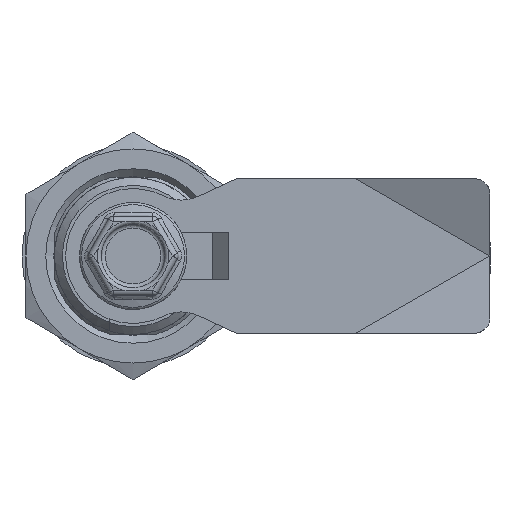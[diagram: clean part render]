
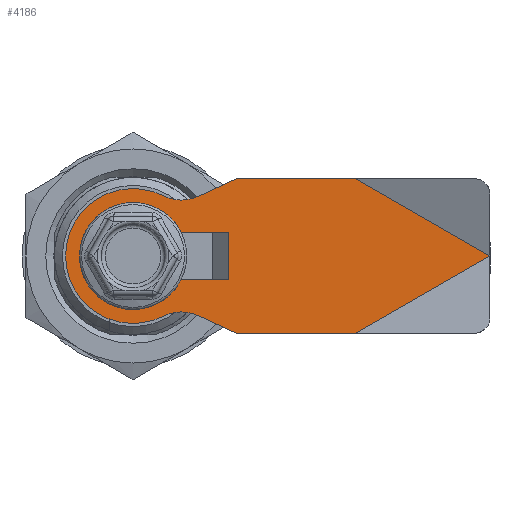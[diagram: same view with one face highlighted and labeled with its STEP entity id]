
A CAD part, front view. The second image highlights one B-rep face of the part: STEP entity #4186.
In plain terms, the highlighted planar face has unit normal (0, -1, 0).
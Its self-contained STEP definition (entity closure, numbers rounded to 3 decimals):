
#3081 = EDGE_CURVE ( 'NONE', #25809, #25818, #16347, .T. ) ;
#3082 = EDGE_CURVE ( 'NONE', #25818, #25817, #16358, .T. ) ;
#3083 = EDGE_CURVE ( 'NONE', #25813, #25812, #16360, .T. ) ;
#3090 = EDGE_CURVE ( 'NONE', #25773, #25790, #16362, .T. ) ;
#3094 = EDGE_CURVE ( 'NONE', #25797, #25794, #16376, .T. ) ;
#3100 = EDGE_CURVE ( 'NONE', #25814, #25813, #16389, .T. ) ;
#3117 = EDGE_CURVE ( 'NONE', #25796, #25812, #16401, .T. ) ;
#3124 = EDGE_CURVE ( 'NONE', #25817, #25816, #16429, .T. ) ;
#3134 = EDGE_CURVE ( 'NONE', #25778, #25793, #16435, .T. ) ;
#3135 = EDGE_CURVE ( 'NONE', #25816, #25815, #16447, .T. ) ;
#3137 = EDGE_CURVE ( 'NONE', #25815, #25814, #16450, .T. ) ;
#3138 = EDGE_CURVE ( 'NONE', #25809, #25796, #16449, .T. ) ;
#3154 = EDGE_CURVE ( 'NONE', #25793, #25773, #16469, .T. ) ;
#3158 = EDGE_CURVE ( 'NONE', #25790, #25778, #16474, .T. ) ;
#3168 = EDGE_CURVE ( 'NONE', #25794, #25811, #16498, .T. ) ;
#3169 = EDGE_CURVE ( 'NONE', #25811, #25810, #16500, .T. ) ;
#3184 = EDGE_CURVE ( 'NONE', #25810, #25797, #16508, .T. ) ;
#4186 = ADVANCED_FACE ( 'NONE', ( #16903, #16891, #16907 ), #14662, .F. ) ;
#5325 = EDGE_LOOP ( 'NONE', ( #6592, #6593, #6594, #6595, #6649, #6653, #6656, #6646, #6645 ) ) ;
#5494 = EDGE_LOOP ( 'NONE', ( #6588, #6589, #6590, #6591 ) ) ;
#5808 = EDGE_LOOP ( 'NONE', ( #6584, #6585, #6586, #6587 ) ) ;
#6584 = ORIENTED_EDGE ( 'NONE', *, *, #3094, .T. ) ;
#6585 = ORIENTED_EDGE ( 'NONE', *, *, #3168, .T. ) ;
#6586 = ORIENTED_EDGE ( 'NONE', *, *, #3169, .T. ) ;
#6587 = ORIENTED_EDGE ( 'NONE', *, *, #3184, .T. ) ;
#6588 = ORIENTED_EDGE ( 'NONE', *, *, #3134, .T. ) ;
#6589 = ORIENTED_EDGE ( 'NONE', *, *, #3154, .T. ) ;
#6590 = ORIENTED_EDGE ( 'NONE', *, *, #3090, .T. ) ;
#6591 = ORIENTED_EDGE ( 'NONE', *, *, #3158, .T. ) ;
#6592 = ORIENTED_EDGE ( 'NONE', *, *, #3138, .T. ) ;
#6593 = ORIENTED_EDGE ( 'NONE', *, *, #3117, .T. ) ;
#6594 = ORIENTED_EDGE ( 'NONE', *, *, #3083, .F. ) ;
#6595 = ORIENTED_EDGE ( 'NONE', *, *, #3100, .F. ) ;
#6645 = ORIENTED_EDGE ( 'NONE', *, *, #3081, .F. ) ;
#6646 = ORIENTED_EDGE ( 'NONE', *, *, #3082, .F. ) ;
#6649 = ORIENTED_EDGE ( 'NONE', *, *, #3137, .F. ) ;
#6653 = ORIENTED_EDGE ( 'NONE', *, *, #3135, .F. ) ;
#6656 = ORIENTED_EDGE ( 'NONE', *, *, #3124, .F. ) ;
#13034 = AXIS2_PLACEMENT_3D ( 'NONE', #22293, #22294, #22295 ) ;
#13035 = AXIS2_PLACEMENT_3D ( 'NONE', #22318, #22321, #22322 ) ;
#13038 = AXIS2_PLACEMENT_3D ( 'NONE', #22315, #22326, #22327 ) ;
#14662 = PLANE ( 'NONE',  #23361 ) ;
#14663 = CARTESIAN_POINT ( 'NONE',  ( -6.094, -4., -12.046 ) ) ;
#14664 = DIRECTION ( 'NONE',  ( 0., 1., 0. ) ) ;
#14665 = DIRECTION ( 'NONE',  ( 0., 0., 1. ) ) ;
#15367 = CARTESIAN_POINT ( 'NONE',  ( -12., -4., -3. ) ) ;
#15372 = CARTESIAN_POINT ( 'NONE',  ( -6., -4., 3. ) ) ;
#15384 = CARTESIAN_POINT ( 'NONE',  ( -12., -4., 3. ) ) ;
#15387 = CARTESIAN_POINT ( 'NONE',  ( -6., -4., -3. ) ) ;
#15388 = CARTESIAN_POINT ( 'NONE',  ( -4.05, -4., -4.05 ) ) ;
#15390 = CARTESIAN_POINT ( 'NONE',  ( -45., -4., 0. ) ) ;
#15391 = CARTESIAN_POINT ( 'NONE',  ( 4.05, -4., -4.05 ) ) ;
#15403 = CARTESIAN_POINT ( 'NONE',  ( -28., -4., 9.75 ) ) ;
#15404 = CARTESIAN_POINT ( 'NONE',  ( 4.05, -4., 4.05 ) ) ;
#15405 = CARTESIAN_POINT ( 'NONE',  ( -4.05, -4., 4.05 ) ) ;
#15406 = CARTESIAN_POINT ( 'NONE',  ( -28., -4., -9.75 ) ) ;
#15407 = CARTESIAN_POINT ( 'NONE',  ( -13., -4., -9.75 ) ) ;
#15408 = CARTESIAN_POINT ( 'NONE',  ( -8.207, -4., -7.515 ) ) ;
#15409 = CARTESIAN_POINT ( 'NONE',  ( -3.837, -4., -7.585 ) ) ;
#15410 = CARTESIAN_POINT ( 'NONE',  ( -3.837, -4., 7.585 ) ) ;
#15411 = CARTESIAN_POINT ( 'NONE',  ( -8.207, -4., 7.515 ) ) ;
#15412 = CARTESIAN_POINT ( 'NONE',  ( -13., -4., 9.75 ) ) ;
#16347 = LINE ( 'NONE', #22186, #16356 ) ;
#16356 = VECTOR ( 'NONE', #22193, 1000. ) ;
#16358 = LINE ( 'NONE', #22194, #16359 ) ;
#16359 = VECTOR ( 'NONE', #22195, 1000. ) ;
#16360 = LINE ( 'NONE', #22196, #16361 ) ;
#16361 = VECTOR ( 'NONE', #22197, 1000. ) ;
#16362 = LINE ( 'NONE', #22211, #16370 ) ;
#16370 = VECTOR ( 'NONE', #22214, 1000. ) ;
#16376 = LINE ( 'NONE', #22215, #16378 ) ;
#16378 = VECTOR ( 'NONE', #22224, 1000. ) ;
#16389 = LINE ( 'NONE', #22235, #16390 ) ;
#16390 = VECTOR ( 'NONE', #22236, 1000. ) ;
#16401 = LINE ( 'NONE', #22276, #16416 ) ;
#16416 = VECTOR ( 'NONE', #22277, 1000. ) ;
#16429 = CIRCLE ( 'NONE', #13034, 5. ) ;
#16435 = LINE ( 'NONE', #22304, #16443 ) ;
#16443 = VECTOR ( 'NONE', #22319, 1000. ) ;
#16444 = VECTOR ( 'NONE', #22329, 1000. ) ;
#16447 = CIRCLE ( 'NONE', #13035, 8.5 ) ;
#16449 = LINE ( 'NONE', #22320, #16444 ) ;
#16450 = CIRCLE ( 'NONE', #13038, 5. ) ;
#16469 = LINE ( 'NONE', #22363, #16475 ) ;
#16474 = LINE ( 'NONE', #22374, #16482 ) ;
#16475 = VECTOR ( 'NONE', #22364, 1000. ) ;
#16482 = VECTOR ( 'NONE', #22375, 1000. ) ;
#16498 = LINE ( 'NONE', #22397, #16499 ) ;
#16499 = VECTOR ( 'NONE', #22398, 1000. ) ;
#16500 = LINE ( 'NONE', #22399, #16501 ) ;
#16501 = VECTOR ( 'NONE', #22400, 1000. ) ;
#16508 = LINE ( 'NONE', #22444, #16527 ) ;
#16527 = VECTOR ( 'NONE', #22445, 1000. ) ;
#16891 = FACE_BOUND ( 'NONE', #5494, .T. ) ;
#16903 = FACE_BOUND ( 'NONE', #5808, .T. ) ;
#16907 = FACE_OUTER_BOUND ( 'NONE', #5325, .T. ) ;
#22186 = CARTESIAN_POINT ( 'NONE',  ( -13., -4., 9.75 ) ) ;
#22193 = DIRECTION ( 'NONE',  ( 1., 0., 0. ) ) ;
#22194 = CARTESIAN_POINT ( 'NONE',  ( -8.207, -4., 7.515 ) ) ;
#22195 = DIRECTION ( 'NONE',  ( 0.906, 0., -0.423 ) ) ;
#22196 = CARTESIAN_POINT ( 'NONE',  ( -45., -4., -9.75 ) ) ;
#22197 = DIRECTION ( 'NONE',  ( -1., 0., 0. ) ) ;
#22211 = CARTESIAN_POINT ( 'NONE',  ( -12., -4., 3. ) ) ;
#22214 = DIRECTION ( 'NONE',  ( 0., 0., 1. ) ) ;
#22215 = CARTESIAN_POINT ( 'NONE',  ( -4.05, -4., -4.05 ) ) ;
#22224 = DIRECTION ( 'NONE',  ( -1., 0., 0. ) ) ;
#22235 = CARTESIAN_POINT ( 'NONE',  ( -13., -4., -9.75 ) ) ;
#22236 = DIRECTION ( 'NONE',  ( -0.906, 0., -0.423 ) ) ;
#22276 = CARTESIAN_POINT ( 'NONE',  ( -48., -4., 1.721 ) ) ;
#22277 = DIRECTION ( 'NONE',  ( 0.867, 0., -0.498 ) ) ;
#22293 = CARTESIAN_POINT ( 'NONE',  ( -6.094, -4., 12.046 ) ) ;
#22294 = DIRECTION ( 'NONE',  ( 0., -1., 0. ) ) ;
#22295 = DIRECTION ( 'NONE',  ( 0., 0., 1. ) ) ;
#22304 = CARTESIAN_POINT ( 'NONE',  ( -6., -4., 3. ) ) ;
#22315 = CARTESIAN_POINT ( 'NONE',  ( -6.094, -4., -12.046 ) ) ;
#22318 = CARTESIAN_POINT ( 'NONE',  ( 0., -4., 0. ) ) ;
#22319 = DIRECTION ( 'NONE',  ( 0., 0., -1. ) ) ;
#22320 = CARTESIAN_POINT ( 'NONE',  ( -48., -4., -1.721 ) ) ;
#22321 = DIRECTION ( 'NONE',  ( 0., 1., 0. ) ) ;
#22322 = DIRECTION ( 'NONE',  ( 0., 0., 1. ) ) ;
#22326 = DIRECTION ( 'NONE',  ( 0., -1., 0. ) ) ;
#22327 = DIRECTION ( 'NONE',  ( 0., 0., 1. ) ) ;
#22329 = DIRECTION ( 'NONE',  ( -0.867, 0., -0.498 ) ) ;
#22363 = CARTESIAN_POINT ( 'NONE',  ( -6., -4., -3. ) ) ;
#22364 = DIRECTION ( 'NONE',  ( -1., 0., 0. ) ) ;
#22374 = CARTESIAN_POINT ( 'NONE',  ( -6., -4., 3. ) ) ;
#22375 = DIRECTION ( 'NONE',  ( 1., 0., 0. ) ) ;
#22397 = CARTESIAN_POINT ( 'NONE',  ( -4.05, -4., -4.05 ) ) ;
#22398 = DIRECTION ( 'NONE',  ( 0., 0., 1. ) ) ;
#22399 = CARTESIAN_POINT ( 'NONE',  ( -4.05, -4., 4.05 ) ) ;
#22400 = DIRECTION ( 'NONE',  ( 1., 0., 0. ) ) ;
#22444 = CARTESIAN_POINT ( 'NONE',  ( 4.05, -4., -4.05 ) ) ;
#22445 = DIRECTION ( 'NONE',  ( 0., 0., -1. ) ) ;
#23361 = AXIS2_PLACEMENT_3D ( 'NONE', #14663, #14664, #14665 ) ;
#25773 = VERTEX_POINT ( 'NONE', #15367 ) ;
#25778 = VERTEX_POINT ( 'NONE', #15372 ) ;
#25790 = VERTEX_POINT ( 'NONE', #15384 ) ;
#25793 = VERTEX_POINT ( 'NONE', #15387 ) ;
#25794 = VERTEX_POINT ( 'NONE', #15388 ) ;
#25796 = VERTEX_POINT ( 'NONE', #15390 ) ;
#25797 = VERTEX_POINT ( 'NONE', #15391 ) ;
#25809 = VERTEX_POINT ( 'NONE', #15403 ) ;
#25810 = VERTEX_POINT ( 'NONE', #15404 ) ;
#25811 = VERTEX_POINT ( 'NONE', #15405 ) ;
#25812 = VERTEX_POINT ( 'NONE', #15406 ) ;
#25813 = VERTEX_POINT ( 'NONE', #15407 ) ;
#25814 = VERTEX_POINT ( 'NONE', #15408 ) ;
#25815 = VERTEX_POINT ( 'NONE', #15409 ) ;
#25816 = VERTEX_POINT ( 'NONE', #15410 ) ;
#25817 = VERTEX_POINT ( 'NONE', #15411 ) ;
#25818 = VERTEX_POINT ( 'NONE', #15412 ) ;
